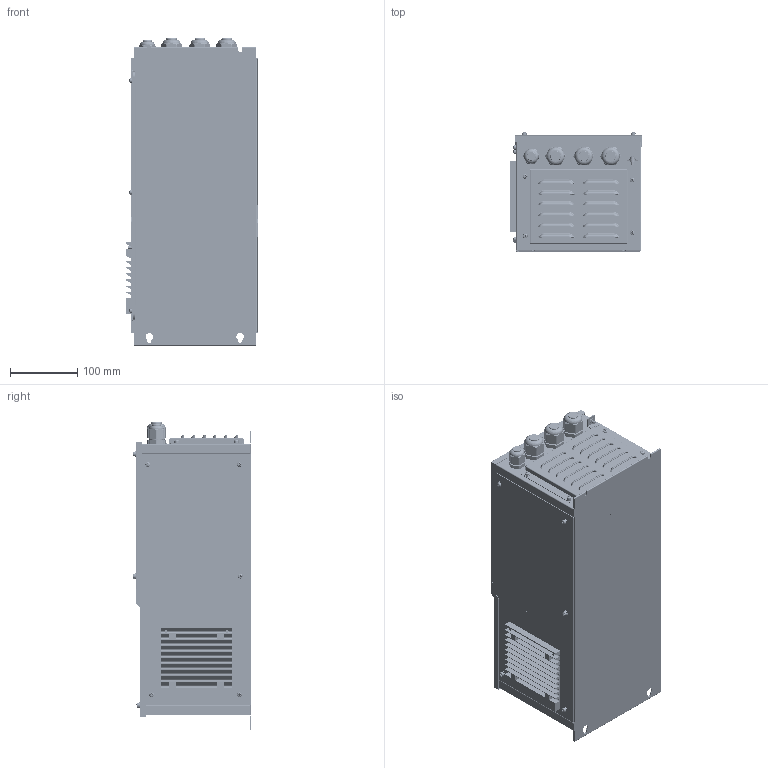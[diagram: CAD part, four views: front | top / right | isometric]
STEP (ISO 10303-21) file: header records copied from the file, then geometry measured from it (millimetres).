
FILE_DESCRIPTION(/* description */ (''),/* implementation_level */ '2;1');
FILE_NAME(/* name */ '\\ad.baltenergomash.ru\office\БЭМ\Personal\Абрамов\!ПКИ\Новая папка\5R5G\VEDA-T3-5R5G_3D_адаптированная.stp',/* time_stamp */ '2023-06-26T07:03:04+03:00',/* author */ ('a.abramov'),/* organization */ (''),/* preprocessor_version */ 'ST-DEVELOPER v18.1',/* originating_system */ 'Autodesk Inventor 2022',/* authorisation */ '');
FILE_SCHEMA (('AUTOMOTIVE_DESIGN { 1 0 10303 214 3 1 1 }'));
Products named in the file (129): 000-veda-t3-5r5g-b54_asm; 2R2G_ASM; AC300-T3-2R2G-0000_ASM_ASM; AC300-T3-2R2G-0000_ASM_29_ASM; AC300-T3-2R2G-D_ASM_2_ASM; PCB_SCU_ASM_1_ASM; PCB_SCU_2; ELT-TJ508-01-9P_1; RJ45_1; 2X6P_PH2R54-Z_1; SMG_1; SWITCH_6X6_1; 2X15P_PH2R54_SMT_1_ASM; 2X15P_PH2R54_SMT_1_1; 2X15P_PH2R54_SMT_1_2; 2X15P_PH2R54_SMT_1_3; 2X15P_PH2R54_SMT_1_4; 2X15P_PH2R54_SMT_1_5; 2X15P_PH2R54_SMT_1_6; 2X15P_PH2R54_SMT_1_7; 2X15P_PH2R54_SMT_1_8; 2X15P_PH2R54_SMT_1_9; 2X15P_PH2R54_SMT_1_10; 2X15P_PH2R54_SMT_1_11; 2X15P_PH2R54_SMT_1_12; 2X15P_PH2R54_SMT_1_13; 2X15P_PH2R54_SMT_1_14; 2X15P_PH2R54_SMT_1_15; 2X15P_PH2R54_SMT_1_16; 2X15P_PH2R54_SMT_1_17; 2X15P_PH2R54_SMT_1_18; 2X15P_PH2R54_SMT_1_19; 2X15P_PH2R54_SMT_1_20; 2X15P_PH2R54_SMT_1_21; 2X15P_PH2R54_SMT_1_22; 2X15P_PH2R54_SMT_1_23; 2X15P_PH2R54_SMT_1_24; 2X15P_PH2R54_SMT_1_25; 2X15P_PH2R54_SMT_1_26; 2X15P_PH2R54_SMT_1_27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
Assembly tree (201 placements, depth 8):
  000-veda-t3-5r5g-b54_asm
    2R2G_ASM
      AC300-T3-2R2G-0000_ASM_ASM
        AC300-T3-2R2G-0000_ASM_29_ASM
          AC300-T3-2R2G-D_ASM_2_ASM
            PCB_SCU_ASM_1_ASM
              PCB_SCU_2
              ELT-TJ508-01-9P_1
              RJ45_1
              2X6P_PH2R54-Z_1  x2
              SMG_1
              SWITCH_6X6_1  x6
              2X15P_PH2R54_SMT_1_ASM
                2X15P_PH2R54_SMT_1_1
                2X15P_PH2R54_SMT_1_2
                2X15P_PH2R54_SMT_1_3
                2X15P_PH2R54_SMT_1_4
                2X15P_PH2R54_SMT_1_5
                2X15P_PH2R54_SMT_1_6
                2X15P_PH2R54_SMT_1_7
                2X15P_PH2R54_SMT_1_8
                2X15P_PH2R54_SMT_1_9
                2X15P_PH2R54_SMT_1_10
                2X15P_PH2R54_SMT_1_11
                2X15P_PH2R54_SMT_1_12
                2X15P_PH2R54_SMT_1_13
                2X15P_PH2R54_SMT_1_14
                2X15P_PH2R54_SMT_1_15
                2X15P_PH2R54_SMT_1_16
                2X15P_PH2R54_SMT_1_17
                2X15P_PH2R54_SMT_1_18
                2X15P_PH2R54_SMT_1_19
                2X15P_PH2R54_SMT_1_20
                2X15P_PH2R54_SMT_1_21
                2X15P_PH2R54_SMT_1_22
                2X15P_PH2R54_SMT_1_23
                2X15P_PH2R54_SMT_1_24
                2X15P_PH2R54_SMT_1_25
                2X15P_PH2R54_SMT_1_26
                2X15P_PH2R54_SMT_1_27
                2X15P_PH2R54_SMT_1_28
                2X15P_PH2R54_SMT_1_29
                2X15P_PH2R54_SMT_1_30
                2X15P_PH2R54_SMT_1_31
              DS-06_1
          AC300-T3-2R2G-P_ASM_2_ASM
            AC300-T3-2R2G-P003_24_ASM
              AC300-T3-2R2G-P003_24_1
              AC300-T3-2R2G-P003_24_2
              AC300-T3-2R2G-P003_24_3
              AC300-T3-2R2G-P003_24_4
              AC300-T3-2R2G-P003_24_5
              AC300-T3-2R2G-P003_24_6
              AC300-T3-2R2G-P003_24_7
              AC300-T3-2R2G-P003_24_8
              AC300-T3-2R2G-P003_24_9
          AC300-T3-2R2G-F0001_2_ASM
            Панель рус
    AC300-T3-5R5G-D_ASM
      FP35R12W2T4-1010010039
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Bounding box: 197 x 176.69 x 457.2 mm (x, y, z)
Volume: 1701139.7 mm3; surface area: 1902349.3 mm2
Topology: 196 solids, 264 shells, 18898 faces, 48770 edges, 31180 vertices
Faces by surface type: plane 12128, bspline 3211, cylinder 2803, cone 418, torus 254, sphere 84
Full cylindrical faces by diameter (mm): 0.1 x4, 0.2 x90, 0.298 x2, 0.5 x22, 0.64 x1, 0.762 x8, 0.8 x4, 0.9 x8, 1 x6, 1.5 x12, 1.6 x2, 2 x1, 2.3 x4, 2.5 x6, 2.6 x4, 2.9 x4, 3 x11, 3.3 x23, 3.5 x45, 3.6 x14, 3.716 x1, 3.8 x22, 4 x67, 4.2 x16, 4.39 x2, 4.4 x1, 4.5 x4, 4.6 x1, 4.99 x4, 5 x30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
Entity records: 590620 total; most frequent: CARTESIAN_POINT 191495, ORIENTED_EDGE 83176, DIRECTION 74523, EDGE_CURVE 41625, LINE 28723, VECTOR 28723, VERTEX_POINT 26526, AXIS2_PLACEMENT_3D 22900
